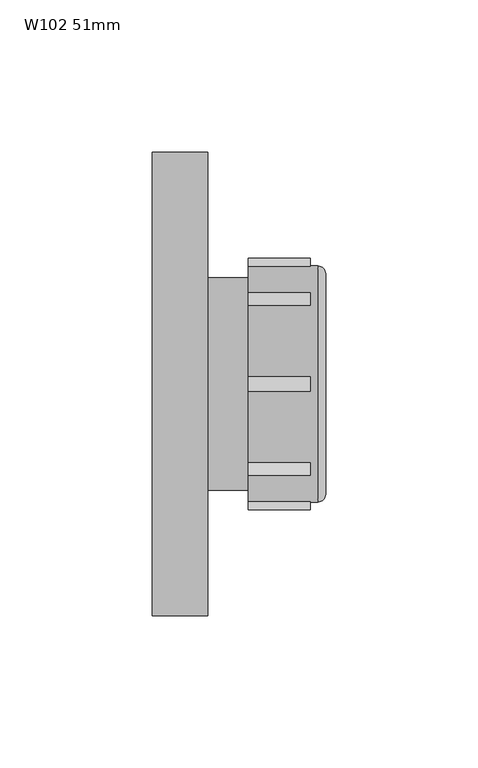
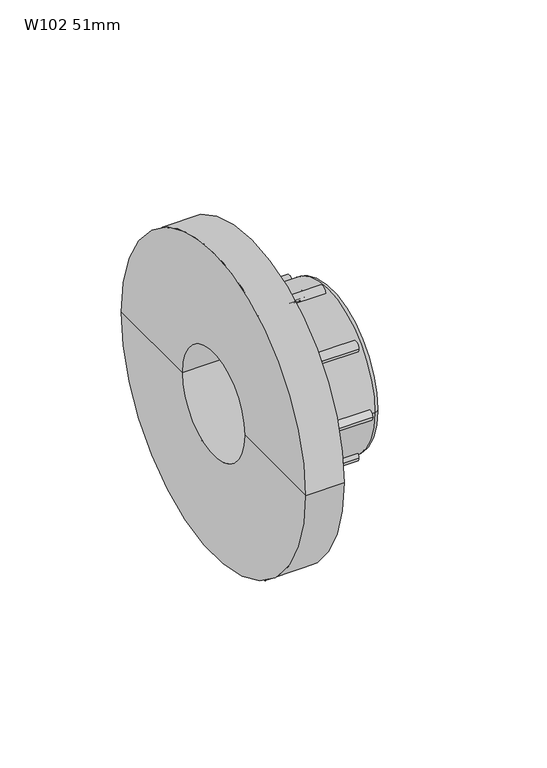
"""IFC4 building model written with IfcOpenShell, lengths in millimetres: pipe fitting geometry, Durapipe_PipeFitting_VulcatheneMechanical_Flange_(L364-L40) : W102 51mm."""

from ifc_helpers import new_model, si_unit, point, frame, frame_2d, origin, place, context, project, spatial, polyline, circle_curve, ellipse_curve, trimmed, segment, composite_curve, outline, extrude, source, transform, mapped, element, save
from ifc_brep_helpers import plane_surface, cylinder_surface, revolved_surface, advanced_brep


def w102_51mm_518020c9(model_context):
    return source(origin(), model_context, "Body", "SolidModel", [
        advanced_brep(
        [(24.6, -22.839549, -22.839549), (24.6, 22.839549, 22.839549), (24.6, 21.2839141, 21.2839141), (24.6, -21.2839141, -21.2839141), (19.0, -22.3445743, -22.3445743), (19.0, 22.3445743, 22.3445743), (17.6, -21.9203102, -21.9203102), (17.6, 21.9203102, 21.9203102), (19.0, 21.9203102, 21.9203102), (19.0, -21.9203102, -21.9203102), (17.6, -20.9303607, -20.9303607), (17.6, 20.9303607, 20.9303607), (19.9, -20.9303607, -20.9303607), (19.9, 20.9303607, 20.9303607), (19.9, -20.647518, -20.647518), (19.9, 20.647518, 20.647518), (22.1, -21.2839141, -21.2839141), (22.1, 21.2839141, 21.2839141), (22.1, 20.647518, 20.647518), (22.1, -20.647518, -20.647518)],
        [
            (0, 1, circle_curve(frame((24.6, 0.0, 0.0), z_axis=(1.0, 0.0, 0.0), x_axis=(0.0, 0.7071067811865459, 0.7071067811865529)), 32.3)),
            (1, 2),
            (2, 3, circle_curve(frame((24.6, 0.0, 0.0), z_axis=(-1.0, 0.0, 0.0), x_axis=(0.0, 0.7071067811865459, 0.7071067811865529)), 30.1)),
            (3, 0),
            (1, 0, circle_curve(frame((24.6, 0.0, 0.0), z_axis=(1.0, 0.0, 0.0), x_axis=(0.0, 0.7071067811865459, 0.7071067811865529)), 32.3)),
            (3, 2, circle_curve(frame((24.6, 0.0, 0.0), z_axis=(-1.0, 0.0, 0.0), x_axis=(0.0, 0.7071067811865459, 0.7071067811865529)), 30.1)),
            (4, 5, circle_curve(frame((19.0, 0.0, 0.0), z_axis=(1.0, 0.0, 0.0), x_axis=(0.0, 0.7071067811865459, 0.7071067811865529)), 31.6)),
            (5, 1),
            (0, 4),
            (5, 4, circle_curve(frame((19.0, 0.0, 0.0), z_axis=(1.0, 0.0, 0.0), x_axis=(0.0, 0.7071067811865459, 0.7071067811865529)), 31.6)),
            (6, 7, circle_curve(frame((17.6, 0.0, 0.0), z_axis=(1.0, 0.0, 0.0), x_axis=(0.0, 0.7071067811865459, 0.7071067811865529)), 31.0)),
            (7, 8),
            (8, 9, circle_curve(frame((19.0, 0.0, 0.0), z_axis=(-1.0, 0.0, 0.0), x_axis=(0.0, 0.7071067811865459, 0.7071067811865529)), 31.0)),
            (9, 6),
            (7, 6, circle_curve(frame((17.6, 0.0, 0.0), z_axis=(1.0, 0.0, 0.0), x_axis=(0.0, 0.7071067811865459, 0.7071067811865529)), 31.0)),
            (9, 8, circle_curve(frame((19.0, 0.0, 0.0), z_axis=(-1.0, 0.0, 0.0), x_axis=(0.0, 0.7071067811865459, 0.7071067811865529)), 31.0)),
            (6, 10),
            (10, 11, circle_curve(frame((17.6, 0.0, 0.0), z_axis=(1.0, 0.0, 0.0), x_axis=(0.0, 0.7071067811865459, 0.7071067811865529)), 29.6)),
            (11, 7),
            (11, 10, circle_curve(frame((17.6, 0.0, 0.0), z_axis=(1.0, 0.0, 0.0), x_axis=(0.0, 0.7071067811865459, 0.7071067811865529)), 29.6)),
            (10, 12),
            (12, 13, circle_curve(frame((19.9, 0.0, 0.0), z_axis=(1.0, 0.0, 0.0), x_axis=(0.0, 0.7071067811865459, 0.7071067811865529)), 29.6)),
            (13, 11),
            (13, 12, circle_curve(frame((19.9, 0.0, 0.0), z_axis=(1.0, 0.0, 0.0), x_axis=(0.0, 0.7071067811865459, 0.7071067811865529)), 29.6)),
            (12, 14),
            (14, 15, circle_curve(frame((19.9, 0.0, 0.0), z_axis=(1.0, 0.0, 0.0), x_axis=(0.0, 0.7071067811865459, 0.7071067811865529)), 29.2)),
            (15, 13),
            (15, 14, circle_curve(frame((19.9, 0.0, 0.0), z_axis=(1.0, 0.0, 0.0), x_axis=(0.0, 0.7071067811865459, 0.7071067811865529)), 29.2)),
            (16, 17, circle_curve(frame((22.1, 0.0, 0.0), z_axis=(1.0, 0.0, 0.0), x_axis=(0.0, 0.7071067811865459, 0.7071067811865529)), 30.1)),
            (17, 18),
            (18, 19, circle_curve(frame((22.1, 0.0, 0.0), z_axis=(-1.0, 0.0, 0.0), x_axis=(0.0, 0.7071067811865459, 0.7071067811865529)), 29.2)),
            (19, 16),
            (17, 16, circle_curve(frame((22.1, 0.0, 0.0), z_axis=(1.0, 0.0, 0.0), x_axis=(0.0, 0.7071067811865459, 0.7071067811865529)), 30.1)),
            (19, 18, circle_curve(frame((22.1, 0.0, 0.0), z_axis=(-1.0, 0.0, 0.0), x_axis=(0.0, 0.7071067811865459, 0.7071067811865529)), 29.2)),
            (2, 17),
            (16, 3),
            (14, 19),
            (18, 15),
            (4, 9),
            (8, 5),
        ],
        [
            plane_surface(frame((24.6, 0.0, 0.0), z_axis=(1.0, 0.0, 0.0), x_axis=(0.0, 0.707106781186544, 0.707106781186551))),
            revolved_surface(polyline([(24.6, 22.839549, 22.839549), (19.0, 22.3445743, 22.3445743)]), (29.6, 0.0, 0.0), (-1.0000000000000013, 0.0, 0.0)),
            cylinder_surface(frame((15.5293443, 0.0, 0.0), z_axis=(-1.0000000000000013, 0.0, 0.0), x_axis=(0.0, 0.7071067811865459, 0.7071067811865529)), 31.0),
            plane_surface(frame((17.6, 0.0, 0.0), z_axis=(-1.0, 0.0, 0.0), x_axis=(0.0, 0.707106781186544, 0.707106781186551))),
            revolved_surface(polyline([(17.60000000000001, 20.93036072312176, 20.930360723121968), (19.900000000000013, 20.93036072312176, 20.930360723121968)]), (14.107009, 0.0, 0.0), (-1.0000000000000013, 0.0, 0.0)),
            plane_surface(frame((19.9, 0.0, 0.0), z_axis=(-1.0, 0.0, 0.0), x_axis=(0.0, 0.707106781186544, 0.707106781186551))),
            plane_surface(frame((22.1, 0.0, 0.0), z_axis=(1.0, 0.0, 0.0), x_axis=(0.0, 0.707106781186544, 0.707106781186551))),
            revolved_surface(polyline([(22.09999999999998, 21.28391411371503, 21.283914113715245), (24.599999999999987, 21.28391411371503, 21.283914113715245)]), (29.6, 0.0, 0.0), (-1.0000000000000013, 0.0, 0.0)),
            revolved_surface(polyline([(19.899999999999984, 20.64751801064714, 20.647518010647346), (22.09999999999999, 20.64751801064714, 20.647518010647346)]), (26.1661924, 0.0, 0.0), (-1.0000000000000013, 0.0, 0.0)),
            plane_surface(frame((19.0, 0.0, 0.0), z_axis=(-1.0, 0.0, 0.0), x_axis=(0.0, 0.707106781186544, 0.707106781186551))),
        ],
        [
            (0, [[1, 2, 3, 4]]),
            (0, [[-2, 5, -4, 6]]),
            (1, [[7, 8, -1, 9]]),
            (1, [[10, -9, -5, -8]]),
            (2, [[11, 12, 13, 14]]),
            (2, [[-12, 15, -14, 16]]),
            (3, [[-11, 17, 18, 19]]),
            (3, [[-15, -19, 20, -17]]),
            (4, [[21, 22, 23, -18]]),
            (4, [[-21, -20, -23, 24]]),
            (5, [[-22, 25, 26, 27]]),
            (5, [[-24, -27, 28, -25]]),
            (6, [[29, 30, 31, 32]]),
            (6, [[33, -32, 34, -30]]),
            (7, [[-3, 35, -29, 36]]),
            (7, [[-6, -36, -33, -35]]),
            (8, [[37, -31, 38, -26]]),
            (8, [[-37, -28, -38, -34]]),
            (9, [[-7, 39, -13, 40]]),
            (9, [[-10, -40, -16, -39]]),
        ],
    ),
        advanced_brep(
        [(3.1, -38.8, 0.0), (3.1, 38.8, 0.0), (26.0, 38.8, 0.0), (26.0, -38.8, 0.0), (3.1, -33.0, 0.0), (3.1, 33.0, 0.0), (28.5, -36.3, 0.0), (28.5, 36.3, 0.0), (28.5, 31.0, 0.0), (28.5, -31.0, 0.0), (24.6, -33.0, 0.0), (24.6, 33.0, 0.0), (24.6, -31.0, 0.0), (24.6, 31.0, 0.0)],
        [
            (0, 1, circle_curve(frame((3.1, 0.0, 0.0), z_axis=(1.0, 0.0, 0.0), x_axis=(0.0, 1.0000000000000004, 0.0)), 38.8)),
            (1, 2),
            (2, 3, circle_curve(frame((26.0, 0.0, 0.0), z_axis=(-1.0, 0.0, 0.0), x_axis=(0.0, 1.0000000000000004, 0.0)), 38.8)),
            (3, 0),
            (1, 0, circle_curve(frame((3.1, 0.0, 0.0), z_axis=(1.0, 0.0, 0.0), x_axis=(0.0, 1.0000000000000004, 0.0)), 38.8)),
            (3, 2, circle_curve(frame((26.0, 0.0, 0.0), z_axis=(-1.0, 0.0, 0.0), x_axis=(0.0, 1.0000000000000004, 0.0)), 38.8)),
            (4, 5, circle_curve(frame((3.1, 0.0, 0.0), z_axis=(1.0, 0.0, 0.0), x_axis=(0.0, 1.0000000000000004, 0.0)), 33.0)),
            (5, 1),
            (0, 4),
            (5, 4, circle_curve(frame((3.1, 0.0, 0.0), z_axis=(1.0, 0.0, 0.0), x_axis=(0.0, 1.0000000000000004, 0.0)), 33.0)),
            (6, 7, circle_curve(frame((28.5, 0.0, 0.0), z_axis=(1.0, 0.0, 0.0), x_axis=(0.0, 1.0000000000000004, 0.0)), 36.3)),
            (7, 8),
            (8, 9, circle_curve(frame((28.5, 0.0, 0.0), z_axis=(-1.0, 0.0, 0.0), x_axis=(0.0, 1.0000000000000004, 0.0)), 31.0)),
            (9, 6),
            (7, 6, circle_curve(frame((28.5, 0.0, 0.0), z_axis=(1.0, 0.0, 0.0), x_axis=(0.0, 1.0000000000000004, 0.0)), 36.3)),
            (9, 8, circle_curve(frame((28.5, 0.0, 0.0), z_axis=(-1.0, 0.0, 0.0), x_axis=(0.0, 1.0000000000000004, 0.0)), 31.0)),
            (2, 7, circle_curve(frame((26.0, 36.3, 0.0), z_axis=(0.0, 0.0, -1.0000000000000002), x_axis=(1.0000000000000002, 0.0, 0.0)), 2.5)),
            (6, 3, circle_curve(frame((26.0, -36.3, 0.0), z_axis=(0.0, 0.0, -1.0000000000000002), x_axis=(1.0000000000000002, 0.0, 0.0)), 2.5)),
            (10, 11, circle_curve(frame((24.6, 0.0, 0.0), z_axis=(1.0, 0.0, 0.0), x_axis=(0.0, 1.0000000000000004, 0.0)), 33.0)),
            (11, 5),
            (4, 10),
            (11, 10, circle_curve(frame((24.6, 0.0, 0.0), z_axis=(1.0, 0.0, 0.0), x_axis=(0.0, 1.0000000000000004, 0.0)), 33.0)),
            (12, 13, circle_curve(frame((24.6, 0.0, 0.0), z_axis=(1.0, 0.0, 0.0), x_axis=(0.0, 1.0000000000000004, 0.0)), 31.0)),
            (13, 11),
            (10, 12),
            (13, 12, circle_curve(frame((24.6, 0.0, 0.0), z_axis=(1.0, 0.0, 0.0), x_axis=(0.0, 1.0000000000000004, 0.0)), 31.0)),
            (8, 13),
            (12, 9),
        ],
        [
            cylinder_surface(frame((1589.3018184, 0.0, 0.0), z_axis=(-1.0000000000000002, 0.0, 0.0), x_axis=(0.0, 1.0000000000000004, 0.0)), 38.8),
            plane_surface(frame((3.1, 0.0, 0.0), z_axis=(-1.0, 0.0, 0.0), x_axis=(0.0, 1.0, 0.0))),
            plane_surface(frame((28.5, 0.0, 0.0), z_axis=(1.0, 0.0, 0.0), x_axis=(0.0, 1.0, 0.0))),
            revolved_surface(trimmed(ellipse_curve(frame((26.0, 36.3, 0.0), z_axis=(0.0, 0.0, 1.0000000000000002), x_axis=(1.0000000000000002, 0.0, 0.0)), 2.5, 2.5), [point((28.5, 36.3, 0.0))], [point((26.0, 38.8, 0.0))], True, "CARTESIAN"), (1589.3018184, 0.0, 0.0), (-1.0000000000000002, 0.0, 0.0)),
            revolved_surface(polyline([(3.0999999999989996, 33.000000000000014, 0.0), (24.599999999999, 33.000000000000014, 0.0)]), (1589.3018184, 0.0, 0.0), (-1.0000000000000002, 0.0, 0.0)),
            plane_surface(frame((24.6, 0.0, 0.0), z_axis=(-1.0, 0.0, 0.0), x_axis=(0.0, 1.0, 0.0))),
            revolved_surface(polyline([(24.599999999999, 31.000000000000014, 0.0), (28.49999999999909, 31.000000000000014, 0.0)]), (1589.3018184, 0.0, 0.0), (-1.0000000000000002, 0.0, 0.0)),
        ],
        [
            (0, [[1, 2, 3, 4]]),
            (0, [[5, -4, 6, -2]]),
            (1, [[7, 8, -1, 9]]),
            (1, [[10, -9, -5, -8]]),
            (2, [[11, 12, 13, 14]]),
            (2, [[15, -14, 16, -12]]),
            (3, [[-3, 17, -11, 18]]),
            (3, [[-6, -18, -15, -17]]),
            (4, [[19, 20, -7, 21]]),
            (4, [[22, -21, -10, -20]]),
            (5, [[23, 24, -19, 25]]),
            (5, [[26, -25, -22, -24]]),
            (6, [[-13, 27, -23, 28]]),
            (6, [[-16, -28, -26, -27]]),
        ],
    ),
        extrude(outline(composite_curve([segment(trimmed(circle_curve(frame_2d((0.0, 38.8)), 2.5), [point((-2.5, 38.8))], [point((2.5, 38.8))], False, "CARTESIAN"), True, "CONTINUOUS"), segment(trimmed(circle_curve(frame_2d((0.0, 38.8)), 2.5), [point((2.5, 38.8))], [point((-2.5, 38.8))], False, "CARTESIAN"), True, "CONTINUOUS")], self_intersect=False)), frame((3.1, 0.0, 0.0), z_axis=(1.0, 0.0, 0.0), x_axis=(0.0, 1.0, 0.0)), (0.0, 0.0, 1.0), 20.4),
        extrude(outline(composite_curve([segment(trimmed(circle_curve(frame_2d((27.4357431, 27.4357431)), 2.5), [point((24.9357431, 27.4357431))], [point((29.9357431, 27.4357431))], False, "CARTESIAN"), True, "CONTINUOUS"), segment(trimmed(circle_curve(frame_2d((27.4357431, 27.4357431)), 2.5), [point((29.9357431, 27.4357431))], [point((24.9357431, 27.4357431))], False, "CARTESIAN"), True, "CONTINUOUS")], self_intersect=False)), frame((3.1, 0.0, 0.0), z_axis=(1.0, 0.0, 0.0), x_axis=(0.0, 1.0, 0.0)), (0.0, 0.0, 1.0), 20.4),
        extrude(outline(composite_curve([segment(trimmed(circle_curve(frame_2d((38.8, 0.0)), 2.5), [point((36.3, 0.0))], [point((41.3, 0.0))], False, "CARTESIAN"), True, "CONTINUOUS"), segment(trimmed(circle_curve(frame_2d((38.8, 0.0)), 2.5), [point((41.3, 0.0))], [point((36.3, 0.0))], False, "CARTESIAN"), True, "CONTINUOUS")], self_intersect=False)), frame((3.1, 0.0, 0.0), z_axis=(1.0, 0.0, 0.0), x_axis=(0.0, 1.0, 0.0)), (0.0, 0.0, 1.0), 20.4),
        extrude(outline(composite_curve([segment(trimmed(circle_curve(frame_2d((27.4357431, -27.4357431)), 2.5), [point((24.9357431, -27.4357431))], [point((29.9357431, -27.4357431))], False, "CARTESIAN"), True, "CONTINUOUS"), segment(trimmed(circle_curve(frame_2d((27.4357431, -27.4357431)), 2.5), [point((29.9357431, -27.4357431))], [point((24.9357431, -27.4357431))], False, "CARTESIAN"), True, "CONTINUOUS")], self_intersect=False)), frame((3.1, 0.0, 0.0), z_axis=(1.0, 0.0, 0.0), x_axis=(0.0, 1.0, 0.0)), (0.0, 0.0, 1.0), 20.4),
        extrude(outline(composite_curve([segment(trimmed(circle_curve(frame_2d((0.0, -38.8)), 2.5), [point((-2.5, -38.8))], [point((2.5, -38.8))], False, "CARTESIAN"), True, "CONTINUOUS"), segment(trimmed(circle_curve(frame_2d((0.0, -38.8)), 2.5), [point((2.5, -38.8))], [point((-2.5, -38.8))], False, "CARTESIAN"), True, "CONTINUOUS")], self_intersect=False)), frame((3.1, 0.0, 0.0), z_axis=(1.0, 0.0, 0.0), x_axis=(0.0, 1.0, 0.0)), (0.0, 0.0, 1.0), 20.4),
        extrude(outline(composite_curve([segment(trimmed(circle_curve(frame_2d((-27.4357431, -27.4357431)), 2.5), [point((-29.9357431, -27.4357431))], [point((-24.9357431, -27.4357431))], False, "CARTESIAN"), True, "CONTINUOUS"), segment(trimmed(circle_curve(frame_2d((-27.4357431, -27.4357431)), 2.5), [point((-24.9357431, -27.4357431))], [point((-29.9357431, -27.4357431))], False, "CARTESIAN"), True, "CONTINUOUS")], self_intersect=False)), frame((3.1, 0.0, 0.0), z_axis=(1.0, 0.0, 0.0), x_axis=(0.0, 1.0, 0.0)), (0.0, 0.0, 1.0), 20.4),
        extrude(outline(composite_curve([segment(trimmed(circle_curve(frame_2d((-38.8, 0.0)), 2.5), [point((-41.3, 0.0))], [point((-36.3, 0.0))], False, "CARTESIAN"), True, "CONTINUOUS"), segment(trimmed(circle_curve(frame_2d((-38.8, 0.0)), 2.5), [point((-36.3, 0.0))], [point((-41.3, 0.0))], False, "CARTESIAN"), True, "CONTINUOUS")], self_intersect=False)), frame((3.1, 0.0, 0.0), z_axis=(1.0, 0.0, 0.0), x_axis=(0.0, 1.0, 0.0)), (0.0, 0.0, 1.0), 20.4),
        extrude(outline(composite_curve([segment(trimmed(circle_curve(frame_2d((-27.4357431, 27.4357431)), 2.5), [point((-29.9357431, 27.4357431))], [point((-24.9357431, 27.4357431))], False, "CARTESIAN"), True, "CONTINUOUS"), segment(trimmed(circle_curve(frame_2d((-27.4357431, 27.4357431)), 2.5), [point((-24.9357431, 27.4357431))], [point((-29.9357431, 27.4357431))], False, "CARTESIAN"), True, "CONTINUOUS")], self_intersect=False)), frame((3.1, 0.0, 0.0), z_axis=(1.0, 0.0, 0.0), x_axis=(0.0, 1.0, 0.0)), (0.0, 0.0, 1.0), 20.4),
        advanced_brep(
        [(-10.2, -34.85, 0.0), (-10.2, 34.85, 0.0), (24.6, 34.85, 0.0), (24.6, -34.85, 0.0), (-10.2, -76.2, 0.0), (-10.2, 76.2, 0.0), (-28.5, -76.2, 0.0), (-28.5, 76.2, 0.0), (-28.5, -26.0, 0.0), (-28.5, 26.0, 0.0), (24.6, 30.3, 0.0), (24.6, -30.3, 0.0), (-4.6, -26.0, 0.0), (-4.6, 26.0, 0.0), (-4.6, 30.3, 0.0), (-4.6, -30.3, 0.0)],
        [
            (0, 1, circle_curve(frame((-10.2, 0.0, 0.0), z_axis=(1.0, 0.0, 0.0), x_axis=(0.0, 1.0, 0.0)), 34.85)),
            (1, 2),
            (2, 3, circle_curve(frame((24.6, 0.0, 0.0), z_axis=(-1.0, 0.0, 0.0), x_axis=(0.0, 1.0, 0.0)), 34.85)),
            (3, 0),
            (1, 0, circle_curve(frame((-10.2, 0.0, 0.0), z_axis=(1.0, 0.0, 0.0), x_axis=(0.0, 1.0, 0.0)), 34.85)),
            (3, 2, circle_curve(frame((24.6, 0.0, 0.0), z_axis=(-1.0, 0.0, 0.0), x_axis=(0.0, 1.0, 0.0)), 34.85)),
            (0, 4),
            (4, 5, circle_curve(frame((-10.2, 0.0, 0.0), z_axis=(1.0, 0.0, 0.0), x_axis=(0.0, 1.0, 0.0)), 76.2)),
            (5, 1),
            (5, 4, circle_curve(frame((-10.2, 0.0, 0.0), z_axis=(1.0, 0.0, 0.0), x_axis=(0.0, 1.0, 0.0)), 76.2)),
            (4, 6),
            (6, 7, circle_curve(frame((-28.5, 0.0, 0.0), z_axis=(1.0, 0.0, 0.0), x_axis=(0.0, 1.0, 0.0)), 76.2)),
            (7, 5),
            (7, 6, circle_curve(frame((-28.5, 0.0, 0.0), z_axis=(1.0, 0.0, 0.0), x_axis=(0.0, 1.0, 0.0)), 76.2)),
            (6, 8),
            (8, 9, circle_curve(frame((-28.5, 0.0, 0.0), z_axis=(1.0, 0.0, 0.0), x_axis=(0.0, 1.0, 0.0)), 26.0)),
            (9, 7),
            (9, 8, circle_curve(frame((-28.5, 0.0, 0.0), z_axis=(1.0, 0.0, 0.0), x_axis=(0.0, 1.0, 0.0)), 26.0)),
            (2, 10),
            (10, 11, circle_curve(frame((24.6, 0.0, 0.0), z_axis=(-1.0, 0.0, 0.0), x_axis=(0.0, 1.0, 0.0)), 30.3)),
            (11, 3),
            (11, 10, circle_curve(frame((24.6, 0.0, 0.0), z_axis=(-1.0, 0.0, 0.0), x_axis=(0.0, 1.0, 0.0)), 30.3)),
            (8, 12),
            (12, 13, circle_curve(frame((-4.6, 0.0, 0.0), z_axis=(1.0, 0.0, 0.0), x_axis=(0.0, 1.0, 0.0)), 26.0)),
            (13, 9),
            (13, 12, circle_curve(frame((-4.6, 0.0, 0.0), z_axis=(1.0, 0.0, 0.0), x_axis=(0.0, 1.0, 0.0)), 26.0)),
            (14, 15, circle_curve(frame((-4.6, 0.0, 0.0), z_axis=(-1.0, 0.0, 0.0), x_axis=(0.0, 1.0, 0.0)), 30.3)),
            (15, 11),
            (10, 14),
            (15, 14, circle_curve(frame((-4.6, 0.0, 0.0), z_axis=(-1.0, 0.0, 0.0), x_axis=(0.0, 1.0, 0.0)), 30.3)),
            (14, 13),
            (12, 15),
        ],
        [
            cylinder_surface(frame((-53.5, 0.0, 0.0), z_axis=(-1.0, 0.0, 0.0), x_axis=(0.0, 1.0, 0.0)), 34.85),
            plane_surface(frame((-10.2, 0.0, 0.0), z_axis=(1.0, 0.0, 0.0), x_axis=(0.0, 1.0, 0.0))),
            cylinder_surface(frame((-53.5, 0.0, 0.0), z_axis=(-1.0, 0.0, 0.0), x_axis=(0.0, 1.0, 0.0)), 76.2),
            plane_surface(frame((-28.5, 0.0, 0.0), z_axis=(-1.0, 0.0, 0.0), x_axis=(0.0, 1.0, 0.0))),
            plane_surface(frame((24.6, 0.0, 0.0), z_axis=(1.0, 0.0, 0.0), x_axis=(0.0, 1.0, 0.0))),
            revolved_surface(polyline([(-28.5, 26.0, 0.0), (-4.600000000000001, 26.0, 0.0)]), (-53.5, 0.0, 0.0), (-1.0, 0.0, 0.0)),
            revolved_surface(polyline([(-4.600000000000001, 30.3, 0.0), (24.599999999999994, 30.3, 0.0)]), (-43.5, 0.0, 0.0), (-1.0, 0.0, 0.0)),
            plane_surface(frame((-4.6, 0.0, 0.0), z_axis=(1.0, 0.0, 0.0), x_axis=(0.0, 1.0, 0.0))),
        ],
        [
            (0, [[1, 2, 3, 4]]),
            (0, [[-2, 5, -4, 6]]),
            (1, [[-1, 7, 8, 9]]),
            (1, [[-5, -9, 10, -7]]),
            (2, [[-8, 11, 12, 13]]),
            (2, [[-10, -13, 14, -11]]),
            (3, [[-12, 15, 16, 17]]),
            (3, [[-14, -17, 18, -15]]),
            (4, [[-3, 19, 20, 21]]),
            (4, [[-6, -21, 22, -19]]),
            (5, [[-16, 23, 24, 25]]),
            (5, [[-18, -25, 26, -23]]),
            (6, [[27, 28, -20, 29]]),
            (6, [[30, -29, -22, -28]]),
            (7, [[-27, 31, -24, 32]]),
            (7, [[-30, -32, -26, -31]]),
        ],
    ),
    ])


if __name__ == "__main__":
    model = new_model("IFC4")
    model_context = context("Model", 3, world=origin())
    ifc_project = project(units=[si_unit("LENGTHUNIT", "METRE", prefix="MILLI")], contexts=[model_context])
    site = spatial("IfcSite", under=ifc_project)
    building = spatial("IfcBuilding", under=site)
    placement = place(None, origin())
    w102_51mm_shape = w102_51mm_518020c9(model_context)
    element("IfcPipeFitting", 1, ObjectType="Durapipe_PipeFitting_VulcatheneMechanical_Flange_(L364-L40) : W102 51mm", at=placement, inside=building, context=model_context, shape_type="MappedRepresentation", body=[
        mapped(w102_51mm_shape, transform((0.0, 0.0, 0.0), x_axis=(1.0, 0.0, 0.0), y_axis=(0.0, 1.0, 0.0), z_axis=(0.0, 0.0, 1.0))),
    ])
    save(model, "model.ifc")
